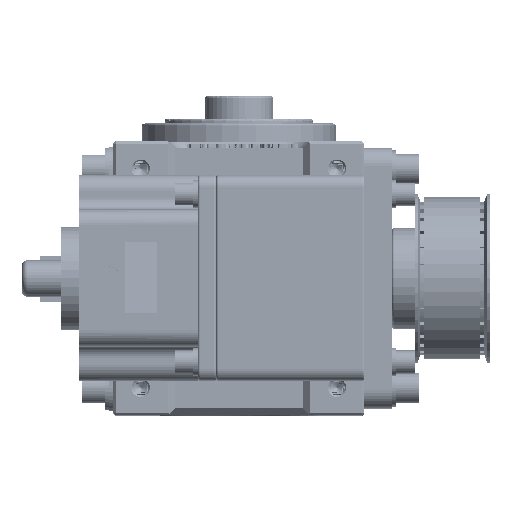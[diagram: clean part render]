
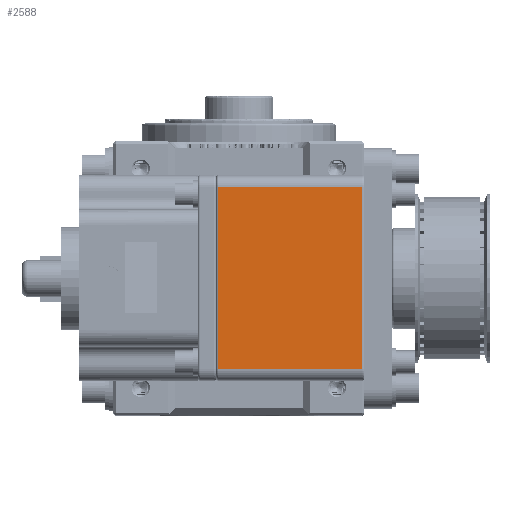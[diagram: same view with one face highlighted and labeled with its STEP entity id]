
A CAD part, top view. The second image highlights one B-rep face of the part: STEP entity #2588.
In plain terms, the highlighted planar face has unit normal (0, 0, 1).
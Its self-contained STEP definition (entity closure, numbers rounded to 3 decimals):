
#2588 = ADVANCED_FACE ( 'NONE', ( #188652 ), #17853, .F. ) ;
#3883 = LINE ( 'NONE', #66951, #91430 ) ;
#14194 = EDGE_CURVE ( 'NONE', #213249, #159734, #121954, .T. ) ;
#17853 = PLANE ( 'NONE',  #184891 ) ;
#21011 = VERTEX_POINT ( 'NONE', #117392 ) ;
#35438 = DIRECTION ( 'NONE',  ( 0., 0., -1. ) ) ;
#35764 = CARTESIAN_POINT ( 'NONE',  ( -64., 173.35, 163. ) ) ;
#37918 = LINE ( 'NONE', #146542, #54419 ) ;
#44376 = ORIENTED_EDGE ( 'NONE', *, *, #116142, .T. ) ;
#46315 = DIRECTION ( 'NONE',  ( 0., 1., 0. ) ) ;
#54419 = VECTOR ( 'NONE', #59273, 1000. ) ;
#59273 = DIRECTION ( 'NONE',  ( 0., -1., 0. ) ) ;
#66951 = CARTESIAN_POINT ( 'NONE',  ( -65., 93.35, 163. ) ) ;
#84594 = LINE ( 'NONE', #219157, #218581 ) ;
#86454 = CARTESIAN_POINT ( 'NONE',  ( -1., 93.35, 163. ) ) ;
#91430 = VECTOR ( 'NONE', #171825, 1000. ) ;
#92033 = EDGE_CURVE ( 'NONE', #182447, #159734, #84594, .T. ) ;
#94157 = EDGE_LOOP ( 'NONE', ( #161331, #44376, #122641, #182430 ) ) ;
#112218 = EDGE_CURVE ( 'NONE', #21011, #213249, #3883, .T. ) ;
#114454 = DIRECTION ( 'NONE',  ( 1., 0., 0. ) ) ;
#115966 = CARTESIAN_POINT ( 'NONE',  ( -1., 173.35, 163. ) ) ;
#116142 = EDGE_CURVE ( 'NONE', #182447, #21011, #37918, .T. ) ;
#117392 = CARTESIAN_POINT ( 'NONE',  ( -64., 93.35, 163. ) ) ;
#120489 = CARTESIAN_POINT ( 'NONE',  ( -65., 173.35, 163. ) ) ;
#121954 = LINE ( 'NONE', #115966, #214918 ) ;
#122641 = ORIENTED_EDGE ( 'NONE', *, *, #112218, .T. ) ;
#146542 = CARTESIAN_POINT ( 'NONE',  ( -64., 93.35, 163. ) ) ;
#157931 = DIRECTION ( 'NONE',  ( -1., 0., 0. ) ) ;
#159734 = VERTEX_POINT ( 'NONE', #167089 ) ;
#161331 = ORIENTED_EDGE ( 'NONE', *, *, #92033, .F. ) ;
#167089 = CARTESIAN_POINT ( 'NONE',  ( -1., 173.35, 163. ) ) ;
#171825 = DIRECTION ( 'NONE',  ( 1., 0., 0. ) ) ;
#182430 = ORIENTED_EDGE ( 'NONE', *, *, #14194, .T. ) ;
#182447 = VERTEX_POINT ( 'NONE', #35764 ) ;
#184891 = AXIS2_PLACEMENT_3D ( 'NONE', #120489, #35438, #157931 ) ;
#188652 = FACE_OUTER_BOUND ( 'NONE', #94157, .T. ) ;
#213249 = VERTEX_POINT ( 'NONE', #86454 ) ;
#214918 = VECTOR ( 'NONE', #46315, 1000. ) ;
#218581 = VECTOR ( 'NONE', #114454, 1000. ) ;
#219157 = CARTESIAN_POINT ( 'NONE',  ( -65., 173.35, 163. ) ) ;
